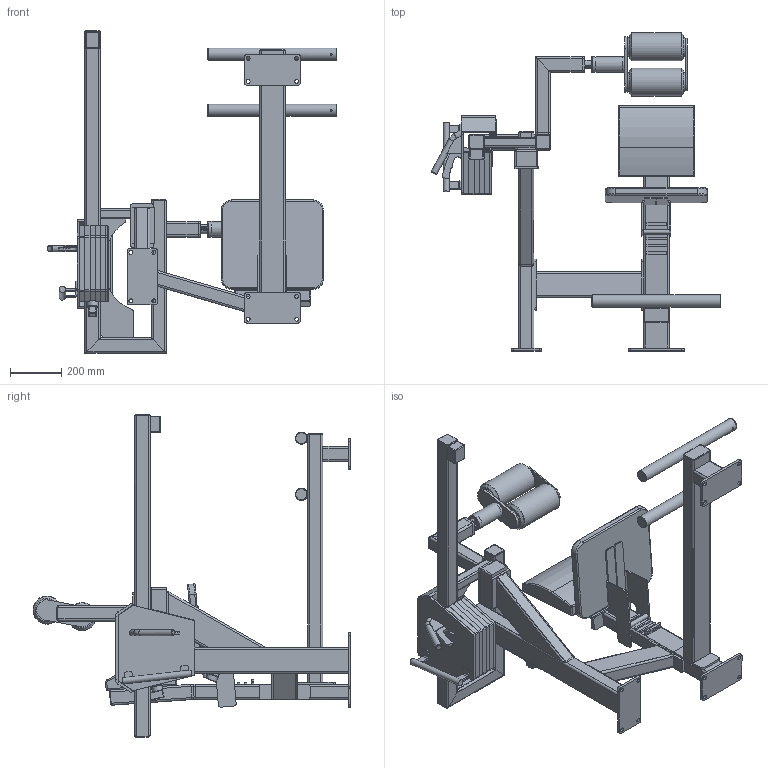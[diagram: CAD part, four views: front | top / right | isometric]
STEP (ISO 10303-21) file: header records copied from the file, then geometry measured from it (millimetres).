
FILE_DESCRIPTION(/* description */ (''),/* implementation_level */ '2;1');
FILE_NAME(/* name */ 'OG26_3D_Low.step',/* time_stamp */ '2025-11-11T16:01:50+02:00',/* author */ (''),/* organization */ (''),/* preprocessor_version */ 'ST-DEVELOPER v20.1',/* originating_system */ 'Autodesk Translation Framework v14.21.0.0',/* authorisation */ '');
FILE_SCHEMA (('AUTOMOTIVE_DESIGN { 1 0 10303 214 3 1 1 }'));
Products named in the file (1): OG26_3D_Low
Bounding box: 1136.06 x 1245.61 x 1263.01 mm (x, y, z)
Volume: 30044999.3 mm3; surface area: 6598659.5 mm2
Topology: 87 solids, 90 shells, 1253 faces, 2978 edges, 1907 vertices
Faces by surface type: plane 615, cylinder 544, torus 36, cone 21, bspline 21, sphere 16
Full cylindrical faces by diameter (mm): 6.8 x1, 7 x3, 8.4 x1, 8.5 x32, 10 x7, 10.124 x19, 11 x4, 13 x13, 14 x1, 15 x14, 17.5 x20, 18 x2, 20.206 x18, 24.96 x2, 25 x7, 25.02 x4, 29 x2, 30 x1, 35 x1, 40 x1, 42 x2, 43.1 x2, 45 x4, 48.3 x2, 50 x1, 55 x3, 57 x4, 60 x2, 60.5 x4, 62 x5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
Entity records: 47727 total; most frequent: CARTESIAN_POINT 18261, DIRECTION 6170, ORIENTED_EDGE 5908, EDGE_CURVE 2954, AXIS2_PLACEMENT_3D 2222, VERTEX_POINT 1907, LINE 1726, VECTOR 1726
